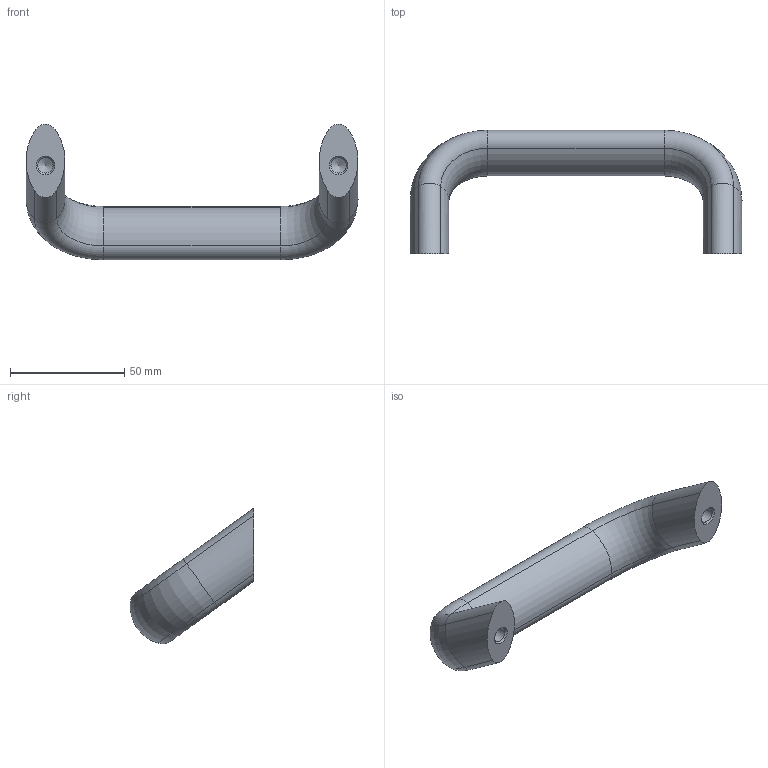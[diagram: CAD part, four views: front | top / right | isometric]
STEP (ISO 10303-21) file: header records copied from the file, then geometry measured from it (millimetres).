
FILE_DESCRIPTION( ( 'STEP AP203' ), '1' );
FILE_NAME( 'C:/Temp/Ganter_Step_05_03_2020/data/1_2/gn_565_2/Inclined cabinet „U“ handle GN 565.2-26-128-A-SW.stp', '2020-03-05T10:09:48', ( 'License CC BY-ND 4.0' ), ( 'CADENAS' ), ' ', 'PARTsolutions', ' ' );
FILE_SCHEMA( ( 'CONFIG_CONTROL_DESIGN' ) );
Length unit declared in the file: millimetre
Products named in the file (1): _Inclined cabinet U handle GN 565.2-26-128-A-SW
Bounding box: 145 x 53.97 x 59.2 mm (x, y, z)
Volume: 71991.9 mm3; surface area: 15923.7 mm2
Topology: 1 solids, 1 shells, 28 faces, 58 edges, 32 vertices
Faces by surface type: cylinder 14, torus 8, cone 4, plane 2
Full cylindrical faces by diameter (mm): 6.647 x2
Entity records: 744 total; most frequent: DIRECTION 146, CARTESIAN_POINT 111, ORIENTED_EDGE 100, AXIS2_PLACEMENT_3D 67, EDGE_CURVE 50, EDGE_LOOP 34, VERTEX_POINT 32, FACE_OUTER_BOUND 30
